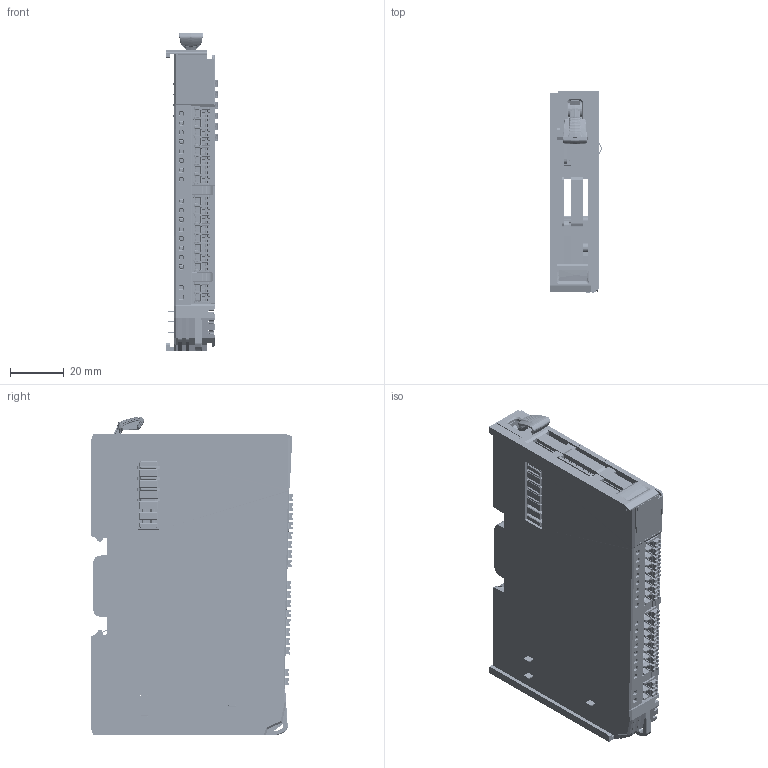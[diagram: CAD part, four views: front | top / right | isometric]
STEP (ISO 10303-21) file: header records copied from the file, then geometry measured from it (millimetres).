
FILE_DESCRIPTION((''),'2;1');
FILE_NAME('03-IO___SW0001','2024-09-19T10:39:27',('aoguohui'),(''),'CREO PARAMETRIC BY PTC INC, 2016390','CREO PARAMETRIC BY PTC INC, 2016390','');
FILE_SCHEMA(('AUTOMOTIVE_DESIGN { 1 0 10303 214 1 1 1 1 }'));
Products named in the file (1): 03-IO___SW0001
Bounding box: 19.2 x 75.37 x 118.5 mm (x, y, z)
Volume: 57862.8 mm3; surface area: 81428.9 mm2
Topology: 1 solids, 2 shells, 9469 faces, 27147 edges, 17475 vertices
Faces by surface type: plane 6439, cylinder 1994, bspline 453, cone 390, torus 85, extrusion 76, sphere 32
Entity records: 379441 total; most frequent: CARTESIAN_POINT 94226, ORIENTED_EDGE 54230, DIRECTION 46629, EDGE_CURVE 27115, VECTOR 19719, LINE 19643, VERTEX_POINT 17475, AXIS2_PLACEMENT_3D 13455
